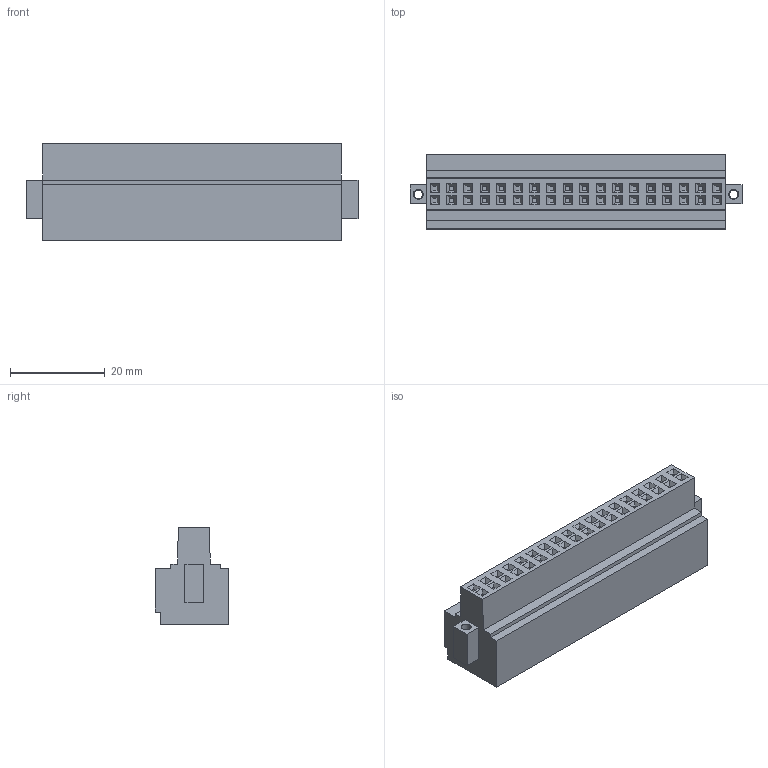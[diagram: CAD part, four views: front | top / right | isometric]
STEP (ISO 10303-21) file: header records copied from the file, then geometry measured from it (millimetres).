
FILE_DESCRIPTION((''),'2;1');
FILE_NAME('CONN_PLUG_36-POS_WEID','2015-03-09T',('dkendric'),(''),'PRO/ENGINEER BY PARAMETRIC TECHNOLOGY CORPORATION, 2014000','PRO/ENGINEER BY PARAMETRIC TECHNOLOGY CORPORATION, 2014000','');
FILE_SCHEMA(('CONFIG_CONTROL_DESIGN'));
Length unit declared in the file: millimetre
Products named in the file (1): CONN_PLUG_36-POS_WEID
Bounding box: 70 x 15.6 x 20.6 mm (x, y, z)
Volume: 14508.5 mm3; surface area: 7009 mm2
Topology: 1 solids, 1 shells, 834 faces, 1866 edges, 1148 vertices
Faces by surface type: plane 606, cylinder 156, cone 72
Entity records: 22624 total; most frequent: CARTESIAN_POINT 3848, DIRECTION 3846, ORIENTED_EDGE 3732, EDGE_CURVE 1866, VECTOR 1554, LINE 1554, VERTEX_POINT 1148, AXIS2_PLACEMENT_3D 1146
